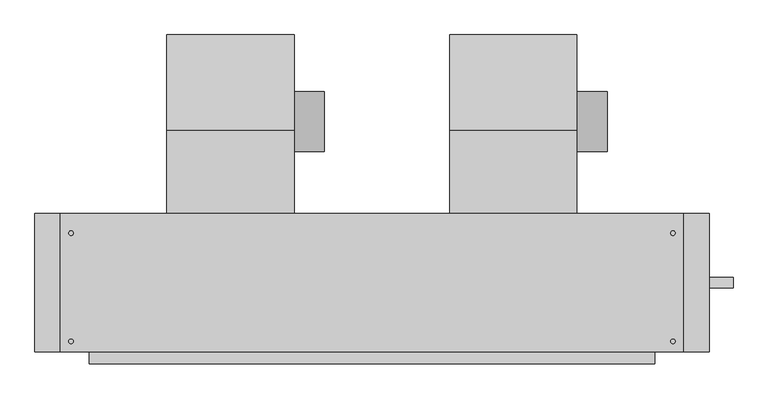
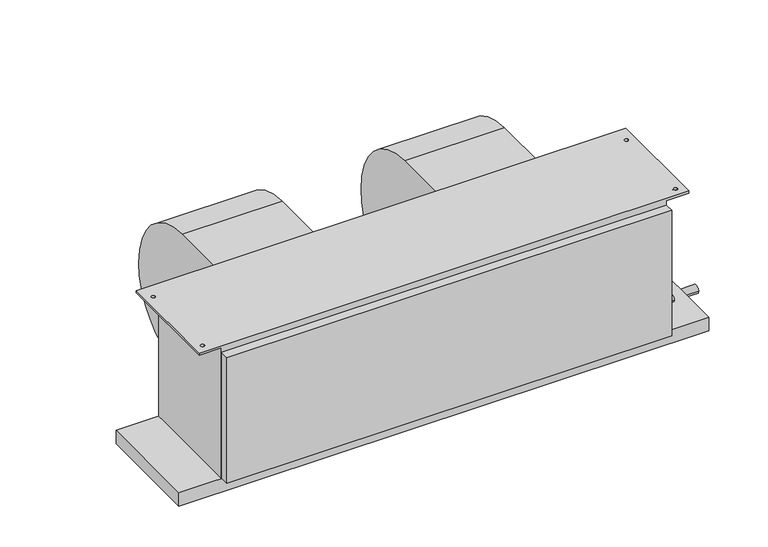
"""IFC4 building model written with IfcOpenShell, lengths in millimetres: proxy geometry, Concealed_High_Capacity_Horizontal_Fan_Coil_Unit_-_42DAA_-_CARRIER_-_4-Pipe_RH_2022 : Size 20 - 277v/60Hz/1Ph - 6/2 Coil."""

from ifc_helpers import new_model, si_unit, point, frame, frame_2d, origin, place, context, project, spatial, polyline, circle_curve, trimmed, segment, composite_curve, outline, extrude, source, transform, mapped, element, save
from ifc_brep_helpers import plane_surface, cylinder_surface, revolved_surface, advanced_brep


def mechanical_equipment_cc6112a4(model_context):
    return source(origin(), model_context, "Body", "SolidModel", [
        extrude(outline(composite_curve([segment(trimmed(circle_curve(frame_2d((117.8757598, -213.2397468)), 63.5), [point((181.3757598, -213.2397468))], [point((54.3757598, -213.2397468))], False, "CARTESIAN"), True, "CONTINUOUS"), segment(trimmed(circle_curve(frame_2d((117.8757598, -213.2397468)), 63.5), [point((54.3757598, -213.2397468))], [point((181.3757598, -213.2397468))], False, "CARTESIAN"), True, "CONTINUOUS")], self_intersect=False)), frame((115.062, 0.0, 0.0), z_axis=(1.0, 0.0, 0.0), x_axis=(0.0, 1.0, 0.0)), (0.0, 0.0, 1.0), 63.5),
        advanced_brep(
        [(-153.162, 301.3905957, -228.379602), (-153.162, 120.4976, -409.99664), (-153.162, -35.0266, -283.45638), (-153.162, -76.2, -283.45638), (-153.162, -76.2, -25.4), (-153.162, 98.8830093, -25.4), (115.062, 301.3905957, -228.379602), (115.062, 98.8830093, -25.4), (115.062, -76.2, -25.4), (115.062, -76.2, -283.45638), (115.062, -35.0266, -283.45638), (115.062, 120.497599, -409.9957839)],
        [
            (0, 1, circle_curve(frame((-153.162, 120.31726, -228.92258), z_axis=(-1.0, 0.0, 0.0), x_axis=(0.0, -1.0, 0.0)), 181.0741498)),
            (1, 2, circle_curve(frame((-153.162, 120.31726, -251.37364), z_axis=(-1.0, 0.0, 0.0), x_axis=(0.0, -1.0, 0.0)), 158.6222464)),
            (2, 3),
            (3, 4),
            (4, 5),
            (5, 0, circle_curve(frame((-153.162, 97.8662, -228.92258), z_axis=(-1.0, 0.0, 0.0), x_axis=(0.0, -1.0, 0.0)), 203.52512)),
            (6, 7, circle_curve(frame((115.062, 97.8662, -228.92258), z_axis=(1.0, 0.0, 0.0), x_axis=(0.0, -1.0, 0.0)), 203.52512)),
            (7, 8),
            (8, 9),
            (9, 10),
            (10, 11, circle_curve(frame((115.062, 120.31726, -251.37364), z_axis=(1.0, 0.0, 0.0), x_axis=(0.0, -1.0, 0.0)), 158.6222464)),
            (11, 6, circle_curve(frame((115.062, 120.31726, -228.92258), z_axis=(1.0, 0.0, 0.0), x_axis=(0.0, -1.0, 0.0)), 181.0741498)),
            (0, 6),
            (11, 1),
            (10, 2),
            (9, 3),
            (8, 4),
            (7, 5),
        ],
        [
            plane_surface(frame((-153.162, -60.7568898, -228.92258), z_axis=(-1.0, 0.0, 0.0), x_axis=(0.0, 0.0, 1.0))),
            plane_surface(frame((115.062, -60.7568898, -228.92258), z_axis=(1.0, 0.0, 0.0), x_axis=(0.0, 0.0, -1.0))),
            cylinder_surface(frame((115.062, 120.31726, -228.92258), z_axis=(-1.0, 0.0, 0.0), x_axis=(0.0, -1.0, 0.0)), 181.0741498),
            cylinder_surface(frame((115.062, 120.31726, -251.37364), z_axis=(-1.0, 0.0, 0.0), x_axis=(0.0, -1.0, 0.0)), 158.6222464),
            plane_surface(frame((-153.162, -35.0266, -283.45638), z_axis=(0.0, 0.0, -1.0), x_axis=(1.0, 0.0, 0.0))),
            plane_surface(frame((-153.162, -76.2, -283.45638), z_axis=(0.0, -1.0, 0.0), x_axis=(1.0, 0.0, 0.0))),
            plane_surface(frame((-153.162, -76.2, -25.4), z_axis=(0.0, 0.0, 1.0), x_axis=(1.0, 0.0, 0.0))),
            cylinder_surface(frame((115.062, 97.8662, -228.92258), z_axis=(-1.0, 0.0, 0.0), x_axis=(0.0, -1.0, 0.0)), 203.52512),
        ],
        [
            (0, [[1, 2, 3, 4, 5, 6]]),
            (1, [[7, 8, 9, 10, 11, 12]]),
            (2, [[-1, 13, -12, 14]]),
            (3, [[-2, -14, -11, 15]]),
            (4, [[-3, -15, -10, 16]]),
            (5, [[-4, -16, -9, 17]]),
            (6, [[-5, -17, -8, 18]]),
            (7, [[-6, -18, -7, -13]]),
        ],
    ),
        extrude(outline(composite_curve([segment(trimmed(circle_curve(frame_2d((117.8757598, -213.2397468)), 63.5), [point((181.3757598, -213.2397468))], [point((54.3757598, -213.2397468))], False, "CARTESIAN"), True, "CONTINUOUS"), segment(trimmed(circle_curve(frame_2d((117.8757598, -213.2397468)), 63.5), [point((54.3757598, -213.2397468))], [point((181.3757598, -213.2397468))], False, "CARTESIAN"), True, "CONTINUOUS")], self_intersect=False)), frame((711.962, 0.0, 0.0), z_axis=(1.0, 0.0, 0.0), x_axis=(0.0, 1.0, 0.0)), (0.0, 0.0, 1.0), 63.5),
        advanced_brep(
        [(443.738, 301.3905957, -228.379602), (443.738, 120.4976, -409.99664), (443.738, -35.0266, -283.45638), (443.738, -76.2, -283.45638), (443.738, -76.2, -25.4), (443.738, 98.8830093, -25.4), (711.962, 301.3905957, -228.379602), (711.962, 98.8830093, -25.4), (711.962, -76.2, -25.4), (711.962, -76.2, -283.45638), (711.962, -35.0266, -283.45638), (711.962, 120.497599, -409.9957839)],
        [
            (0, 1, circle_curve(frame((443.738, 120.31726, -228.92258), z_axis=(-1.0, 0.0, 0.0), x_axis=(0.0, -1.0, 0.0)), 181.0741498)),
            (1, 2, circle_curve(frame((443.738, 120.31726, -251.37364), z_axis=(-1.0, 0.0, 0.0), x_axis=(0.0, -1.0, 0.0)), 158.6222464)),
            (2, 3),
            (3, 4),
            (4, 5),
            (5, 0, circle_curve(frame((443.738, 97.8662, -228.92258), z_axis=(-1.0, 0.0, 0.0), x_axis=(0.0, -1.0, 0.0)), 203.52512)),
            (6, 7, circle_curve(frame((711.962, 97.8662, -228.92258), z_axis=(1.0, 0.0, 0.0), x_axis=(0.0, -1.0, 0.0)), 203.52512)),
            (7, 8),
            (8, 9),
            (9, 10),
            (10, 11, circle_curve(frame((711.962, 120.31726, -251.37364), z_axis=(1.0, 0.0, 0.0), x_axis=(0.0, -1.0, 0.0)), 158.6222464)),
            (11, 6, circle_curve(frame((711.962, 120.31726, -228.92258), z_axis=(1.0, 0.0, 0.0), x_axis=(0.0, -1.0, 0.0)), 181.0741498)),
            (0, 6),
            (11, 1),
            (10, 2),
            (9, 3),
            (8, 4),
            (7, 5),
        ],
        [
            plane_surface(frame((443.738, -60.7568898, -228.92258), z_axis=(-1.0, 0.0, 0.0), x_axis=(0.0, 0.0, 1.0))),
            plane_surface(frame((711.962, -60.7568898, -228.92258), z_axis=(1.0, 0.0, 0.0), x_axis=(0.0, 0.0, -1.0))),
            cylinder_surface(frame((711.962, 120.31726, -228.92258), z_axis=(-1.0, 0.0, 0.0), x_axis=(0.0, -1.0, 0.0)), 181.0741498),
            cylinder_surface(frame((711.962, 120.31726, -251.37364), z_axis=(-1.0, 0.0, 0.0), x_axis=(0.0, -1.0, 0.0)), 158.6222464),
            plane_surface(frame((443.738, -35.0266, -283.45638), z_axis=(0.0, 0.0, -1.0), x_axis=(1.0, 0.0, 0.0))),
            plane_surface(frame((443.738, -76.2, -283.45638), z_axis=(0.0, -1.0, 0.0), x_axis=(1.0, 0.0, 0.0))),
            plane_surface(frame((443.738, -76.2, -25.4), z_axis=(0.0, 0.0, 1.0), x_axis=(1.0, 0.0, 0.0))),
            cylinder_surface(frame((711.962, 97.8662, -228.92258), z_axis=(-1.0, 0.0, 0.0), x_axis=(0.0, -1.0, 0.0)), 203.52512),
        ],
        [
            (0, [[1, 2, 3, 4, 5, 6]]),
            (1, [[7, 8, 9, 10, 11, 12]]),
            (2, [[-1, 13, -12, 14]]),
            (3, [[-2, -14, -11, 15]]),
            (4, [[-3, -15, -10, 16]]),
            (5, [[-4, -16, -9, 17]]),
            (6, [[-5, -17, -8, 18]]),
            (7, [[-6, -18, -7, -13]]),
        ],
    ),
        extrude(outline(polyline([(990.6, -76.2), (990.6, -368.3), (-431.8, -368.3), (-431.8, -76.2), (990.6, -76.2)])), frame((0.0, 0.0, -415.925), z_axis=(0.0, 0.0, 1.0), x_axis=(1.0, 0.0, 0.0)), (0.0, 0.0, 1.0), 38.1),
        extrude(outline(polyline([(876.3, -393.7), (-317.5, -393.7), (-317.5, -368.3), (876.3, -368.3), (876.3, -393.7)])), frame((0.0, 0.0, -374.65), z_axis=(0.0, 0.0, 1.0), x_axis=(1.0, 0.0, 0.0)), (0.0, 0.0, 1.0), 355.6),
        extrude(outline(composite_curve([segment(trimmed(circle_curve(frame_2d((-222.25, -403.225)), 11.1125), [point((-233.3625, -403.225))], [point((-211.1375, -403.225))], False, "CARTESIAN"), True, "CONTINUOUS"), segment(trimmed(circle_curve(frame_2d((-222.25, -403.225)), 11.1125), [point((-211.1375, -403.225))], [point((-233.3625, -403.225))], False, "CARTESIAN"), True, "CONTINUOUS")], self_intersect=False)), frame((990.6, 0.0, 0.0), z_axis=(1.0, 0.0, 0.0), x_axis=(0.0, 1.0, 0.0)), (0.0, 0.0, 1.0), 50.8),
        extrude(outline(composite_curve([segment(trimmed(circle_curve(frame_2d((-187.325, -122.2375)), 14.2875), [point((-173.0375, -122.2375))], [point((-201.6125, -122.2375))], False, "CARTESIAN"), True, "CONTINUOUS"), segment(trimmed(circle_curve(frame_2d((-187.325, -122.2375)), 14.2875), [point((-201.6125, -122.2375))], [point((-173.0375, -122.2375))], False, "CARTESIAN"), True, "CONTINUOUS")], self_intersect=False)), frame((876.3, 0.0, 0.0), z_axis=(1.0, 0.0, 0.0), x_axis=(0.0, 1.0, 0.0)), (0.0, 0.0, 1.0), 50.8),
        extrude(outline(composite_curve([segment(trimmed(circle_curve(frame_2d((-269.875, -265.1125)), 14.2875), [point((-255.5875, -265.1125))], [point((-284.1625, -265.1125))], False, "CARTESIAN"), True, "CONTINUOUS"), segment(trimmed(circle_curve(frame_2d((-269.875, -265.1125)), 14.2875), [point((-284.1625, -265.1125))], [point((-255.5875, -265.1125))], False, "CARTESIAN"), True, "CONTINUOUS")], self_intersect=False)), frame((876.3, 0.0, 0.0), z_axis=(1.0, 0.0, 0.0), x_axis=(0.0, 1.0, 0.0)), (0.0, 0.0, 1.0), 50.8),
        extrude(outline(composite_curve([segment(trimmed(circle_curve(frame_2d((-311.15, -19.05)), 7.9375), [point((-303.2125, -19.05))], [point((-319.0875, -19.05))], False, "CARTESIAN"), True, "CONTINUOUS"), segment(trimmed(circle_curve(frame_2d((-311.15, -19.05)), 7.9375), [point((-319.0875, -19.05))], [point((-303.2125, -19.05))], False, "CARTESIAN"), True, "CONTINUOUS")], self_intersect=False)), frame((876.3, 0.0, 0.0), z_axis=(1.0, 0.0, 0.0), x_axis=(0.0, 1.0, 0.0)), (0.0, 0.0, 1.0), 50.8),
        extrude(outline(composite_curve([segment(trimmed(circle_curve(frame_2d((-311.15, -336.55)), 7.9375), [point((-303.2125, -336.55))], [point((-319.0875, -336.55))], False, "CARTESIAN"), True, "CONTINUOUS"), segment(trimmed(circle_curve(frame_2d((-311.15, -336.55)), 7.9375), [point((-319.0875, -336.55))], [point((-303.2125, -336.55))], False, "CARTESIAN"), True, "CONTINUOUS")], self_intersect=False)), frame((876.3, 0.0, 0.0), z_axis=(1.0, 0.0, 0.0), x_axis=(0.0, 1.0, 0.0)), (0.0, 0.0, 1.0), 50.8),
        advanced_brep(
        [(876.3, -76.2, -377.825), (876.3, -368.3, -377.825), (-317.5, -368.3, -377.825), (-317.5, -76.2, -377.825), (-317.5, -368.3, -6.35), (-317.5, -76.2, -6.35), (876.3, -76.2, -6.35), (876.3, -368.3, -6.35), (-377.825, -76.2, 0.0), (-377.825, -368.3, 0.0), (936.625, -368.3, 0.0), (936.625, -76.2, 0.0), (-350.8375, -117.475, 0.0), (-360.3625, -117.475, 0.0), (-350.8375, -346.075, 0.0), (-360.3625, -346.075, 0.0), (919.1625, -117.475, 0.0), (909.6375, -117.475, 0.0), (919.1625, -346.075, 0.0), (909.6375, -346.075, 0.0), (-377.825, -76.2, -6.35), (-377.825, -368.3, -6.35), (-360.3625, -117.475, -6.35), (-350.8375, -117.475, -6.35), (-360.3625, -346.075, -6.35), (-350.8375, -346.075, -6.35), (936.625, -76.2, -6.35), (936.625, -368.3, -6.35), (909.6375, -117.475, -6.35), (919.1625, -117.475, -6.35), (909.6375, -346.075, -6.35), (919.1625, -346.075, -6.35)],
        [
            (0, 1),
            (1, 2),
            (2, 3),
            (3, 0),
            (2, 4),
            (4, 5),
            (5, 3),
            (0, 6),
            (6, 7),
            (7, 1),
            (8, 9),
            (9, 10),
            (10, 11),
            (11, 8),
            (12, 13, circle_curve(frame((-355.6, -117.475, 0.0), z_axis=(0.0, 0.0, -1.0), x_axis=(1.0, 0.0, 0.0)), 4.7625)),
            (13, 12, circle_curve(frame((-355.6, -117.475, 0.0), z_axis=(0.0, 0.0, -1.0), x_axis=(1.0, 0.0, 0.0)), 4.7625)),
            (14, 15, circle_curve(frame((-355.6, -346.075, 0.0), z_axis=(0.0, 0.0, -1.0), x_axis=(1.0, 0.0, 0.0)), 4.7625)),
            (15, 14, circle_curve(frame((-355.6, -346.075, 0.0), z_axis=(0.0, 0.0, -1.0), x_axis=(1.0, 0.0, 0.0)), 4.7625)),
            (16, 17, circle_curve(frame((914.4, -117.475, 0.0), z_axis=(0.0, 0.0, -1.0), x_axis=(1.0, 0.0, 0.0)), 4.7625)),
            (17, 16, circle_curve(frame((914.4, -117.475, 0.0), z_axis=(0.0, 0.0, -1.0), x_axis=(1.0, 0.0, 0.0)), 4.7625)),
            (18, 19, circle_curve(frame((914.4, -346.075, 0.0), z_axis=(0.0, 0.0, -1.0), x_axis=(1.0, 0.0, 0.0)), 4.7625)),
            (19, 18, circle_curve(frame((914.4, -346.075, 0.0), z_axis=(0.0, 0.0, -1.0), x_axis=(1.0, 0.0, 0.0)), 4.7625)),
            (20, 5),
            (4, 21),
            (21, 20),
            (22, 23, circle_curve(frame((-355.6, -117.475, -6.35), z_axis=(0.0, 0.0, 1.0), x_axis=(1.0, 0.0, 0.0)), 4.7625)),
            (23, 22, circle_curve(frame((-355.6, -117.475, -6.35), z_axis=(0.0, 0.0, 1.0), x_axis=(1.0, 0.0, 0.0)), 4.7625)),
            (24, 25, circle_curve(frame((-355.6, -346.075, -6.35), z_axis=(0.0, 0.0, 1.0), x_axis=(1.0, 0.0, 0.0)), 4.7625)),
            (25, 24, circle_curve(frame((-355.6, -346.075, -6.35), z_axis=(0.0, 0.0, 1.0), x_axis=(1.0, 0.0, 0.0)), 4.7625)),
            (26, 27),
            (27, 7),
            (6, 26),
            (28, 29, circle_curve(frame((914.4, -117.475, -6.35), z_axis=(0.0, 0.0, 1.0), x_axis=(1.0, 0.0, 0.0)), 4.7625)),
            (29, 28, circle_curve(frame((914.4, -117.475, -6.35), z_axis=(0.0, 0.0, 1.0), x_axis=(1.0, 0.0, 0.0)), 4.7625)),
            (30, 31, circle_curve(frame((914.4, -346.075, -6.35), z_axis=(0.0, 0.0, 1.0), x_axis=(1.0, 0.0, 0.0)), 4.7625)),
            (31, 30, circle_curve(frame((914.4, -346.075, -6.35), z_axis=(0.0, 0.0, 1.0), x_axis=(1.0, 0.0, 0.0)), 4.7625)),
            (8, 20),
            (21, 9),
            (27, 10),
            (11, 26),
            (12, 23),
            (22, 13),
            (14, 25),
            (24, 15),
            (16, 29),
            (28, 17),
            (18, 31),
            (30, 19),
        ],
        [
            plane_surface(frame((-317.5, -76.2, -377.825), z_axis=(0.0, 0.0, -1.0), x_axis=(1.0, 0.0, 0.0))),
            plane_surface(frame((-317.5, -76.2, 0.0), z_axis=(-1.0, 0.0, 0.0), x_axis=(0.0, 0.0, -1.0))),
            plane_surface(frame((876.3, -368.3, 0.0), z_axis=(1.0, 0.0, 0.0), x_axis=(0.0, 0.0, -1.0))),
            plane_surface(frame((-377.825, -76.2, 0.0), z_axis=(0.0, 0.0, 1.0), x_axis=(0.0, -1.0, 0.0))),
            plane_surface(frame((-377.825, -76.2, -6.35), z_axis=(0.0, 0.0, -1.0), x_axis=(0.0, 1.0, 0.0))),
            plane_surface(frame((-377.825, -76.2, 0.0), z_axis=(-1.0, 0.0, 0.0), x_axis=(0.0, 0.0, -1.0))),
            plane_surface(frame((-377.825, -368.3, 0.0), z_axis=(0.0, -1.0, 0.0), x_axis=(0.0, 0.0, -1.0))),
            plane_surface(frame((-317.5, -76.2, 0.0), z_axis=(0.0, 1.0, 0.0), x_axis=(0.0, 0.0, -1.0))),
            plane_surface(frame((936.625, -368.3, 0.0), z_axis=(1.0, 0.0, 0.0), x_axis=(0.0, 0.0, -1.0))),
            revolved_surface(polyline([(-350.83750000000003, -117.475, 0.0), (-350.83750000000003, -117.475, -6.35)]), (-355.6, -117.475, -6.35), (0.0, 0.0, 1.0)),
            revolved_surface(polyline([(-350.83750000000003, -346.075, 0.0), (-350.83750000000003, -346.075, -6.35)]), (-355.6, -346.075, 0.0), (0.0, 0.0, 1.0)),
            revolved_surface(polyline([(919.1625, -117.475, 0.0), (919.1625, -117.475, -6.35)]), (914.4, -117.475, 0.0), (0.0, 0.0, 1.0)),
            revolved_surface(polyline([(919.1625, -346.075, 0.0), (919.1625, -346.075, -6.35)]), (914.4, -346.075, 0.0), (0.0, 0.0, 1.0)),
        ],
        [
            (0, [[1, 2, 3, 4]]),
            (1, [[-3, 5, 6, 7]]),
            (2, [[-1, 8, 9, 10]]),
            (3, [[11, 12, 13, 14], [15, 16], [17, 18], [19, 20], [21, 22]]),
            (4, [[23, -6, 24, 25], [26, 27], [28, 29]]),
            (4, [[30, 31, -9, 32], [33, 34], [35, 36]]),
            (5, [[-11, 37, -25, 38]]),
            (6, [[-12, -38, -24, -5, -2, -10, -31, 39]]),
            (7, [[-14, 40, -32, -8, -4, -7, -23, -37]]),
            (8, [[-13, -39, -30, -40]]),
            (9, [[41, -26, 42, -15]]),
            (9, [[-41, -16, -42, -27]]),
            (10, [[43, -28, 44, -17]]),
            (10, [[-43, -18, -44, -29]]),
            (11, [[45, -33, 46, -19]]),
            (11, [[-45, -20, -46, -34]]),
            (12, [[47, -35, 48, -21]]),
            (12, [[-47, -22, -48, -36]]),
        ],
    ),
    ])


if __name__ == "__main__":
    model = new_model("IFC4")
    model_context = context("Model", 3, world=origin())
    ifc_project = project(units=[si_unit("LENGTHUNIT", "METRE", prefix="MILLI")], contexts=[model_context])
    site = spatial("IfcSite", under=ifc_project)
    building = spatial("IfcBuilding", under=site)
    placement = place(None, origin())
    mechanical_equipment_shape = mechanical_equipment_cc6112a4(model_context)
    element("IfcBuildingElementProxy", 1, Name="Concealed_High_Capacity_Horizontal_Fan_Coil_Unit_-_42DAA_-_CARRIER_-_4-Pipe_RH_2022 : Size 20 - 277v/60Hz/1Ph - 6/2 Coil", ObjectType="Concealed_High_Capacity_Horizontal_Fan_Coil_Unit_-_42DAA_-_CARRIER_-_4-Pipe_RH_2022 : Size 20 - 277v/60Hz/1Ph - 6/2 Coil", at=placement, inside=building, context=model_context, shape_type="MappedRepresentation", body=[
        mapped(mechanical_equipment_shape, transform((0.0, 0.0, 0.0), x_axis=(1.0, 0.0, 0.0), y_axis=(0.0, 1.0, 0.0), z_axis=(0.0, 0.0, 1.0))),
    ])
    save(model, "model.ifc")
